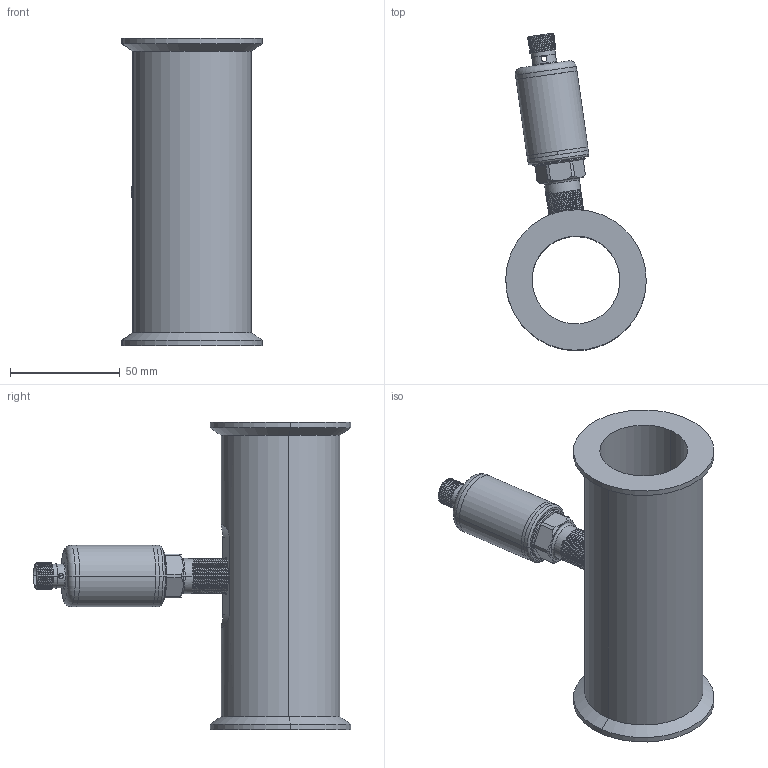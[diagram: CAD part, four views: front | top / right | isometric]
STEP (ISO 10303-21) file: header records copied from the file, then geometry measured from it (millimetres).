
FILE_DESCRIPTION (( 'STEP AP214' ), '1' );
FILE_NAME ('BFW1K40-J.STEP', '2026-05-27T09:56:42', ( '' ), ( '' ), 'SwSTEP 2.0', 'SolidWorks 2023', '' );
FILE_SCHEMA (( 'AUTOMOTIVE_DESIGN' ));
Length unit declared in the file: millimetre
Products named in the file (7): 压力变送器; BFW1K40-J; 壳体; 探头; 垫片; DN40卡盘-华东; 连接管
Assembly tree (6 placements, depth 3):
  BFW1K40-J
    压力变送器
      壳体
      垫片
      连接管
      探头
    DN40卡盘-华东
Bounding box: 63.97 x 144.47 x 140 mm (x, y, z)
Volume: 163136.1 mm3; surface area: 63562.5 mm2
Topology: 5 solids, 5 shells, 205 faces, 507 edges, 324 vertices
Faces by surface type: cylinder 124, cone 35, plane 34, torus 8, bspline 4
Entity records: 9892 total; most frequent: CARTESIAN_POINT 5076, ORIENTED_EDGE 1014, DIRECTION 941, EDGE_CURVE 507, AXIS2_PLACEMENT_3D 379, VERTEX_POINT 324, EDGE_LOOP 235, FACE_OUTER_BOUND 205
